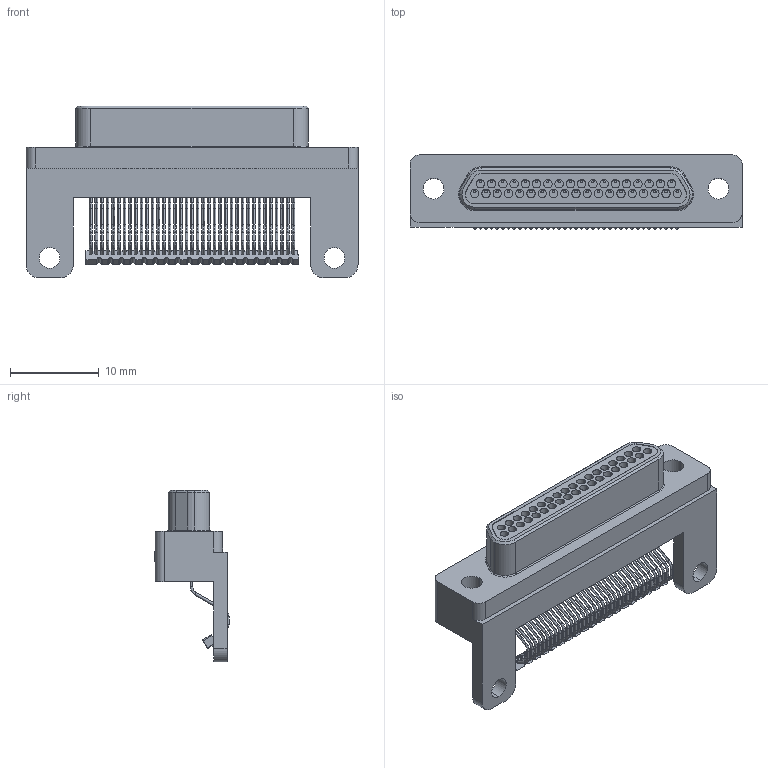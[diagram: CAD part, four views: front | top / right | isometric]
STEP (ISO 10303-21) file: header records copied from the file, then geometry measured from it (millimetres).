
FILE_DESCRIPTION (( 'STEP AP214' ), '1' );
FILE_NAME ('A98118-037 REV A.STEP', '2016-07-28T21:54:18', ( '' ), ( '' ), 'SwSTEP 2.0', 'SolidWorks 2015', '' );
FILE_SCHEMA (( 'AUTOMOTIVE_DESIGN' ));
Length unit declared in the file: inch
Products named in the file (1): A98118-037 REV A
Bounding box: 37.47 x 8.36 x 19.41 mm (x, y, z)
Volume: 2153.1 mm3; surface area: 3684.1 mm2
Topology: 1 solids, 1 shells, 2276 faces, 6237 edges, 3976 vertices
Faces by surface type: plane 1023, cylinder 893, torus 227, cone 79, bspline 54
Entity records: 75914 total; most frequent: CARTESIAN_POINT 16231, DIRECTION 12941, ORIENTED_EDGE 12462, EDGE_CURVE 6231, AXIS2_PLACEMENT_3D 4741, VERTEX_POINT 3976, VECTOR 3459, LINE 3459
